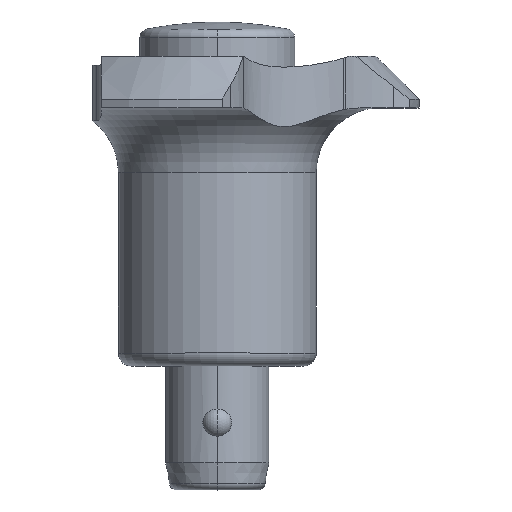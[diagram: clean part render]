
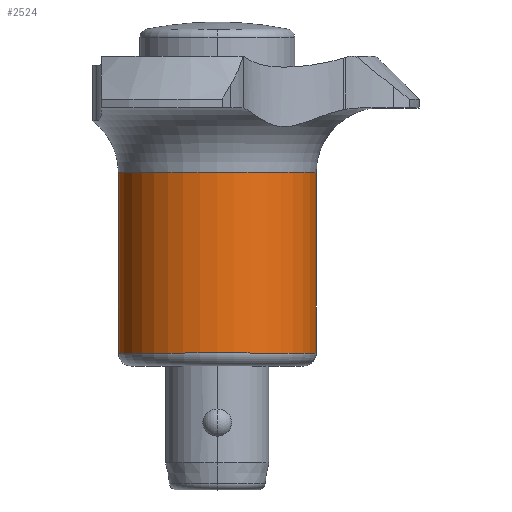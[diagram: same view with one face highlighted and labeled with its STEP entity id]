
A CAD part, top view. The second image highlights one B-rep face of the part: STEP entity #2524.
In plain terms, the highlighted cylindrical face has radius 11.5 mm (diameter 23 mm), a partial arc.
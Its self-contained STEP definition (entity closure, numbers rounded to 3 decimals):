
#10 = VERTEX_POINT ( 'NONE', #2696 ) ;
#28 = CARTESIAN_POINT ( 'NONE',  ( 11.5, 36., 0. ) ) ;
#95 = EDGE_CURVE ( 'NONE', #200, #999, #2324, .T. ) ;
#200 = VERTEX_POINT ( 'NONE', #1162 ) ;
#215 = CARTESIAN_POINT ( 'NONE',  ( 11.5, 1.5, 0. ) ) ;
#217 = AXIS2_PLACEMENT_3D ( 'NONE', #986, #1622, #2099 ) ;
#545 = ORIENTED_EDGE ( 'NONE', *, *, #2819, .F. ) ;
#695 = EDGE_CURVE ( 'NONE', #10, #1712, #1135, .T. ) ;
#774 = EDGE_LOOP ( 'NONE', ( #1668, #2673, #2587, #545 ) ) ;
#876 = DIRECTION ( 'NONE',  ( 0., 1., 0. ) ) ;
#986 = CARTESIAN_POINT ( 'NONE',  ( 0., 1.5, 0. ) ) ;
#999 = VERTEX_POINT ( 'NONE', #215 ) ;
#1040 = AXIS2_PLACEMENT_3D ( 'NONE', #1906, #2136, #1249 ) ;
#1108 = LINE ( 'NONE', #28, #2839 ) ;
#1135 = CIRCLE ( 'NONE', #1867, 11.5 ) ;
#1162 = CARTESIAN_POINT ( 'NONE',  ( -11.5, 1.5, 0. ) ) ;
#1249 = DIRECTION ( 'NONE',  ( -1., 0., 0. ) ) ;
#1261 = FACE_OUTER_BOUND ( 'NONE', #774, .T. ) ;
#1462 = DIRECTION ( 'NONE',  ( -1., 0., 0. ) ) ;
#1479 = DIRECTION ( 'NONE',  ( 0., 1., 0. ) ) ;
#1490 = CYLINDRICAL_SURFACE ( 'NONE', #1040, 11.5 ) ;
#1622 = DIRECTION ( 'NONE',  ( 0., 1., 0. ) ) ;
#1668 = ORIENTED_EDGE ( 'NONE', *, *, #95, .T. ) ;
#1682 = VECTOR ( 'NONE', #1479, 1000. ) ;
#1706 = LINE ( 'NONE', #2313, #1682 ) ;
#1712 = VERTEX_POINT ( 'NONE', #2115 ) ;
#1795 = EDGE_CURVE ( 'NONE', #999, #1712, #1108, .T. ) ;
#1867 = AXIS2_PLACEMENT_3D ( 'NONE', #2555, #2527, #1462 ) ;
#1906 = CARTESIAN_POINT ( 'NONE',  ( 0., 36., 0. ) ) ;
#2099 = DIRECTION ( 'NONE',  ( 1., 0., 0. ) ) ;
#2115 = CARTESIAN_POINT ( 'NONE',  ( 11.5, 22.5, 0. ) ) ;
#2136 = DIRECTION ( 'NONE',  ( 0., 1., 0. ) ) ;
#2313 = CARTESIAN_POINT ( 'NONE',  ( -11.5, 36., 0. ) ) ;
#2324 = CIRCLE ( 'NONE', #217, 11.5 ) ;
#2524 = ADVANCED_FACE ( 'NONE', ( #1261 ), #1490, .T. ) ;
#2527 = DIRECTION ( 'NONE',  ( 0., 1., 0. ) ) ;
#2555 = CARTESIAN_POINT ( 'NONE',  ( 0., 22.5, 0. ) ) ;
#2587 = ORIENTED_EDGE ( 'NONE', *, *, #695, .F. ) ;
#2673 = ORIENTED_EDGE ( 'NONE', *, *, #1795, .T. ) ;
#2696 = CARTESIAN_POINT ( 'NONE',  ( -11.5, 22.5, 0. ) ) ;
#2819 = EDGE_CURVE ( 'NONE', #200, #10, #1706, .T. ) ;
#2839 = VECTOR ( 'NONE', #876, 1000. ) ;
